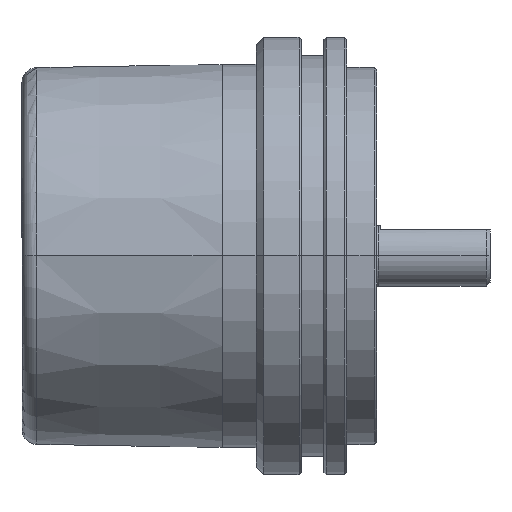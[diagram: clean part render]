
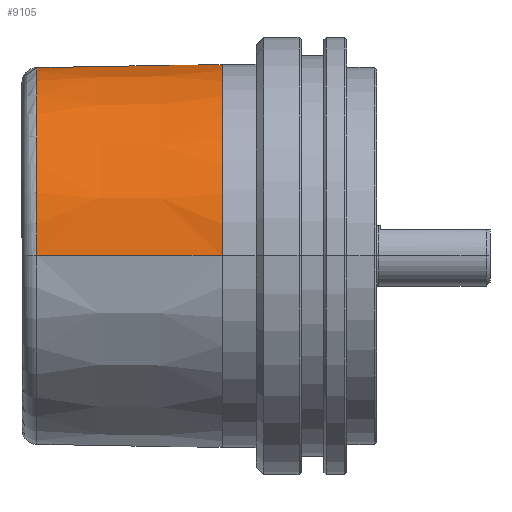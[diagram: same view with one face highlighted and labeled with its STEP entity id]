
A CAD part, top view. The second image highlights one B-rep face of the part: STEP entity #9105.
In plain terms, the highlighted conical face has half-angle 1 degrees and reference radius 25.4 mm.
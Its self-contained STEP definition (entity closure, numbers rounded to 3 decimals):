
#23 = CARTESIAN_POINT ( 'NONE',  ( -19.006, 17.139, -18.163 ) ) ;
#127 = ORIENTED_EDGE ( 'NONE', *, *, #4976, .T. ) ;
#170 = AXIS2_PLACEMENT_3D ( 'NONE', #4877, #6566, #5707 ) ;
#173 = DIRECTION ( 'NONE',  ( 0., 0., -1. ) ) ;
#335 = ORIENTED_EDGE ( 'NONE', *, *, #5134, .T. ) ;
#771 = B_SPLINE_CURVE_WITH_KNOTS ( 'NONE', 3,
 ( #7161, #1427, #3069, #8780 ),
 .UNSPECIFIED., .F., .F.,
 ( 4, 4 ),
 ( 0., 0.023 ),
 .UNSPECIFIED. ) ;
#797 = CARTESIAN_POINT ( 'NONE',  ( 3.921, 16.775, -19.036 ) ) ;
#1427 = CARTESIAN_POINT ( 'NONE',  ( -3.948, 16.895, -18.747 ) ) ;
#1473 = EDGE_CURVE ( 'NONE', #5244, #4048, #7501, .T. ) ;
#1580 = B_SPLINE_CURVE_WITH_KNOTS ( 'NONE', 3,
 ( #9837, #8998, #23, #5773 ),
 .UNSPECIFIED., .F., .F.,
 ( 4, 4 ),
 ( 0., 0. ),
 .UNSPECIFIED. ) ;
#1594 = LINE ( 'NONE', #3344, #5710 ) ;
#2042 = CARTESIAN_POINT ( 'NONE',  ( -19.035, 0., 24.972 ) ) ;
#2076 = ORIENTED_EDGE ( 'NONE', *, *, #4484, .T. ) ;
#2528 = VERTEX_POINT ( 'NONE', #6056 ) ;
#2794 = ORIENTED_EDGE ( 'NONE', *, *, #1473, .T. ) ;
#3069 = CARTESIAN_POINT ( 'NONE',  ( -11.448, 17.014, -18.462 ) ) ;
#3100 = VERTEX_POINT ( 'NONE', #3495 ) ;
#3224 = B_SPLINE_CURVE_WITH_KNOTS ( 'NONE', 3,
 ( #5271, #4038, #9774, #4874, #10627, #5705, #797, #6528 ),
 .UNSPECIFIED., .F., .F.,
 ( 4, 2, 2, 4 ),
 ( 0., 0.001, 0.001, 0.002 ),
 .UNSPECIFIED. ) ;
#3260 = CARTESIAN_POINT ( 'NONE',  ( -19.035, 0., 0. ) ) ;
#3344 = CARTESIAN_POINT ( 'NONE',  ( 5.5, 0., 25.4 ) ) ;
#3495 = CARTESIAN_POINT ( 'NONE',  ( 5.5, 0., 25.4 ) ) ;
#3782 = EDGE_CURVE ( 'NONE', #4048, #3100, #1594, .T. ) ;
#3932 = CARTESIAN_POINT ( 'NONE',  ( -19.035, 17.138, -18.162 ) ) ;
#4038 = CARTESIAN_POINT ( 'NONE',  ( 5.364, 16.2, -19.56 ) ) ;
#4048 = VERTEX_POINT ( 'NONE', #2042 ) ;
#4098 = DIRECTION ( 'NONE',  ( 0., 0., -1. ) ) ;
#4298 = CARTESIAN_POINT ( 'NONE',  ( 5.5, 16.106, -19.64 ) ) ;
#4484 = EDGE_CURVE ( 'NONE', #3100, #5506, #6099, .T. ) ;
#4627 = EDGE_CURVE ( 'NONE', #5506, #2528, #3224, .T. ) ;
#4874 = CARTESIAN_POINT ( 'NONE',  ( 4.924, 16.447, -19.343 ) ) ;
#4877 = CARTESIAN_POINT ( 'NONE',  ( 5.5, 0., 0. ) ) ;
#4976 = EDGE_CURVE ( 'NONE', #2528, #8647, #771, .T. ) ;
#5080 = DIRECTION ( 'NONE',  ( -1., 0., 0. ) ) ;
#5134 = EDGE_CURVE ( 'NONE', #8647, #5244, #1580, .T. ) ;
#5140 = AXIS2_PLACEMENT_3D ( 'NONE', #9996, #5080, #173 ) ;
#5244 = VERTEX_POINT ( 'NONE', #3932 ) ;
#5271 = CARTESIAN_POINT ( 'NONE',  ( 5.5, 16.106, -19.64 ) ) ;
#5506 = VERTEX_POINT ( 'NONE', #4298 ) ;
#5705 = CARTESIAN_POINT ( 'NONE',  ( 4.279, 16.699, -19.111 ) ) ;
#5707 = DIRECTION ( 'NONE',  ( 0., 0., 1. ) ) ;
#5710 = VECTOR ( 'NONE', #9075, 1000. ) ;
#5773 = CARTESIAN_POINT ( 'NONE',  ( -19.035, 17.138, -18.162 ) ) ;
#6056 = CARTESIAN_POINT ( 'NONE',  ( 3.552, 16.781, -19.022 ) ) ;
#6099 = CIRCLE ( 'NONE', #5140, 25.4 ) ;
#6528 = CARTESIAN_POINT ( 'NONE',  ( 3.552, 16.781, -19.022 ) ) ;
#6566 = DIRECTION ( 'NONE',  ( 1., 0., 0. ) ) ;
#7161 = CARTESIAN_POINT ( 'NONE',  ( 3.552, 16.781, -19.022 ) ) ;
#7501 = CIRCLE ( 'NONE', #7960, 24.972 ) ;
#7890 = FACE_OUTER_BOUND ( 'NONE', #8085, .T. ) ;
#7960 = AXIS2_PLACEMENT_3D ( 'NONE', #3260, #8988, #4098 ) ;
#8085 = EDGE_LOOP ( 'NONE', ( #2794, #8854, #2076, #8289, #127, #335 ) ) ;
#8289 = ORIENTED_EDGE ( 'NONE', *, *, #4627, .T. ) ;
#8647 = VERTEX_POINT ( 'NONE', #9127 ) ;
#8780 = CARTESIAN_POINT ( 'NONE',  ( -18.948, 17.138, -18.165 ) ) ;
#8854 = ORIENTED_EDGE ( 'NONE', *, *, #3782, .T. ) ;
#8988 = DIRECTION ( 'NONE',  ( 1., 0., 0. ) ) ;
#8998 = CARTESIAN_POINT ( 'NONE',  ( -18.977, 17.139, -18.163 ) ) ;
#9075 = DIRECTION ( 'NONE',  ( 1., 0., 0.017 ) ) ;
#9105 = ADVANCED_FACE ( 'NONE', ( #7890 ), #9292, .T. ) ;
#9127 = CARTESIAN_POINT ( 'NONE',  ( -18.948, 17.138, -18.165 ) ) ;
#9292 = CONICAL_SURFACE ( 'NONE', #170, 25.4, 0.017 ) ;
#9774 = CARTESIAN_POINT ( 'NONE',  ( 5.222, 16.288, -19.484 ) ) ;
#9837 = CARTESIAN_POINT ( 'NONE',  ( -18.948, 17.138, -18.165 ) ) ;
#9996 = CARTESIAN_POINT ( 'NONE',  ( 5.5, 0., 0. ) ) ;
#10627 = CARTESIAN_POINT ( 'NONE',  ( 4.767, 16.519, -19.278 ) ) ;
